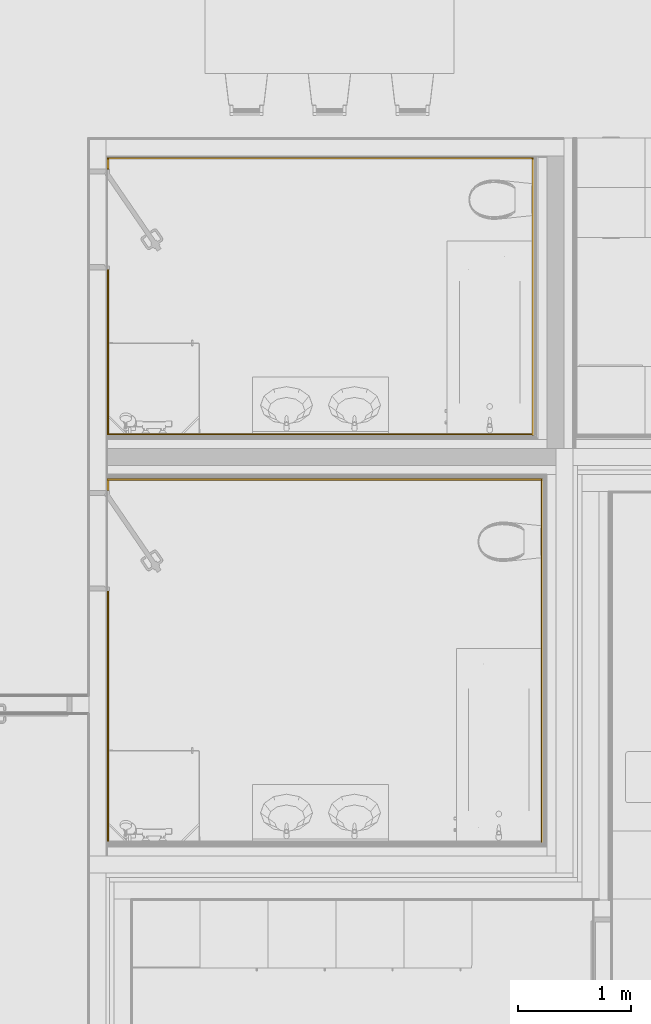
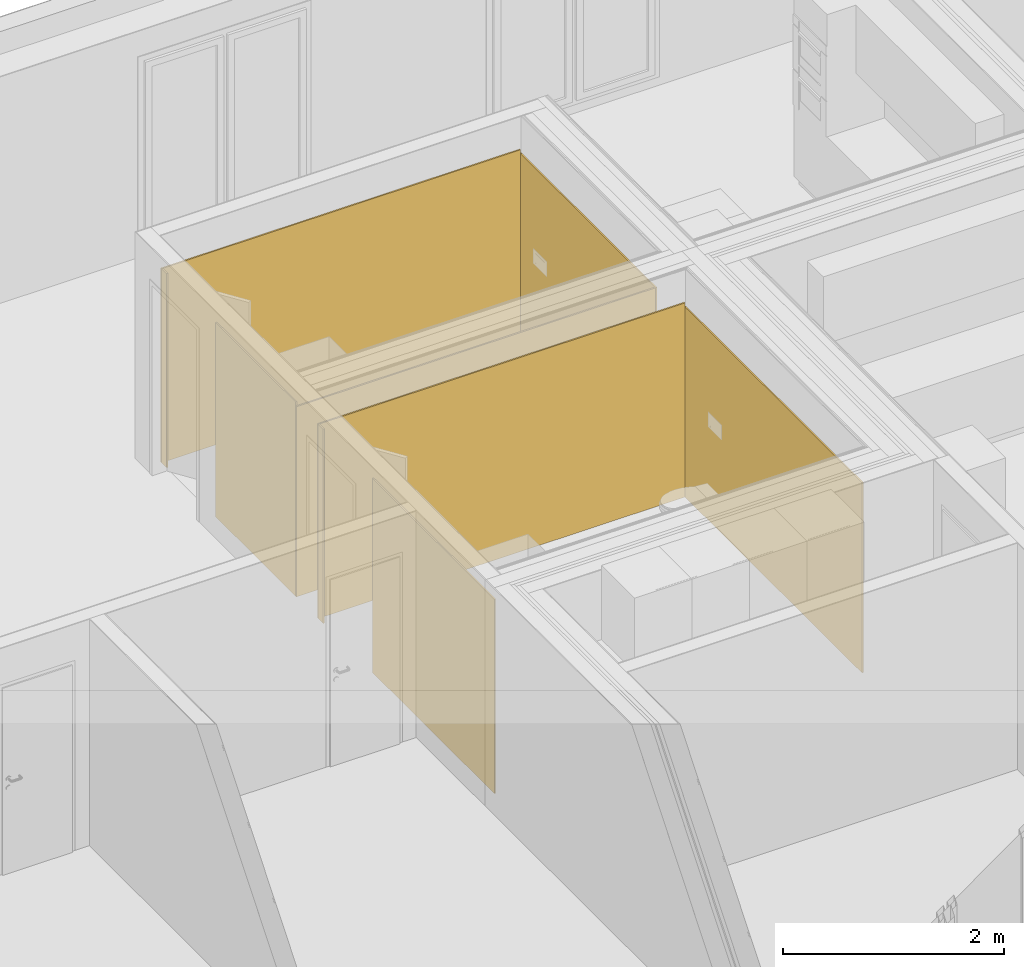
# One storey, part 23 of 34: 9 coverings.
"""IFC4 building model written with IfcOpenShell, lengths in millimetres."""

from ifc_helpers import new_model, entity, si_unit, converted_unit, derived_unit, direction, frame, origin_with_axes, place, context, subcontext, project, spatial, polygons, material, constituent, constituent_set, type_object, element, save


model = new_model("IFC4")

# Units and contexts
model_context = context("Model", 3, precision=0.01, world=origin_with_axes(), true_north=direction((0.0, 1.0)))
body_context = subcontext(model_context, "Body", "Model", "MODEL_VIEW")
ifc_project = project(units=[si_unit("LENGTHUNIT", "METRE", prefix="MILLI"), si_unit("AREAUNIT", "SQUARE_METRE"), si_unit("VOLUMEUNIT", "CUBIC_METRE"), converted_unit("PLANEANGLEUNIT", "DEGREE", entity("IfcPlaneAngleMeasure", 0.0174532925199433), si_unit("PLANEANGLEUNIT", "RADIAN"), dimensions=[0, 0, 0, 0, 0, 0, 0]), converted_unit("TIMEUNIT", "Year", entity("IfcTimeMeasure", 31557600.0), si_unit("TIMEUNIT", "SECOND"), dimensions=[0, 0, 1, 0, 0, 0, 0]), si_unit("MASSUNIT", "GRAM", prefix="KILO"), si_unit("THERMODYNAMICTEMPERATUREUNIT", "DEGREE_CELSIUS"), si_unit("LUMINOUSINTENSITYUNIT", "LUMEN"), si_unit("ENERGYUNIT", "JOULE", prefix="MEGA"), derived_unit("THERMALCONDUCTANCEUNIT", [(si_unit("POWERUNIT", "WATT"), 1), (si_unit("LENGTHUNIT", "METRE"), -1), (si_unit("THERMODYNAMICTEMPERATUREUNIT", "KELVIN"), -1)]), derived_unit("SPECIFICHEATCAPACITYUNIT", [(si_unit("ENERGYUNIT", "JOULE"), 1), (si_unit("MASSUNIT", "GRAM", prefix="KILO"), -1), (si_unit("THERMODYNAMICTEMPERATUREUNIT", "KELVIN"), -1)]), derived_unit("MASSDENSITYUNIT", [(si_unit("MASSUNIT", "GRAM", prefix="KILO"), 1), (si_unit("VOLUMEUNIT", "CUBIC_METRE"), -1)])], contexts=[model_context])

# Site, building, storey
site_placement = place(None, origin_with_axes())
site = spatial("IfcSite", under=ifc_project, at=site_placement, Name="Gelände", CompositionType="ELEMENT")
building_placement = place(site_placement, origin_with_axes())
building = spatial("IfcBuilding", under=site, at=building_placement, Name="Gebäude", CompositionType="ELEMENT")
storey_placement = place(building_placement, frame((0.0, 0.0, 5799.999999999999), z_axis=(0.0, 0.0, 1.0), x_axis=(1.0, 0.0, 0.0)))
storey = spatial("IfcBuildingStorey", under=building, at=storey_placement, Name="2.OG", CompositionType="ELEMENT", Elevation=5800.0)

# Coverings
ifc_material = material(Name="Naturstein")
ifc_constituent_1 = constituent(ifc_material, Name="Naturstein")
ifc_constituent_set_1 = constituent_set(constituents=[ifc_constituent_1], Name="Wandbekleidung Typ 01")
covering_type = type_object("IfcCoveringType", Name="Wandbekleidung Typ 01 15", PredefinedType="NOTDEFINED")
covering_1_placement = place(storey_placement, frame((297.9958184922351, 30702.59728131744, 150.0000000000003), z_axis=(0.0, 0.0, 1.0), x_axis=(0.0, -1.0, 0.0)))
element("IfcCovering", 1, at=covering_1_placement, inside=storey, type_object=covering_type, material=ifc_constituent_set_1, Name="Wand-014", PredefinedType="NOTDEFINED", context=body_context, shape_type="Tessellation", body=[
    polygons([(2208.223895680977, -15.00000000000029, 2145.000000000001), (2208.223895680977, -15.00000000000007, 2100.000000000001), (2208.223895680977, -15.00000000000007, 0.0), (2208.223895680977, 0.0, 0.0), (2208.223895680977, 0.0, 2100.000000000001), (2208.223895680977, 0.0, 2145.000000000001), (0.0, -15.00000000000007, 0.0), (0.0, -14.99999999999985, 2145.000000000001), (0.0, 0.0, 0.0), (0.0, 0.0, 2145.000000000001)], [[[1, 2, 3, 4, 5, 6]], [[7, 3, 2, 1, 8]], [[9, 4, 3, 7]], [[6, 5, 4, 9, 10]], [[10, 8, 1, 6]], [[10, 9, 7, 8]]], closed=True),
])
ifc_constituent_2 = constituent(ifc_material, Name="Naturstein")
ifc_constituent_set_2 = constituent_set(constituents=[ifc_constituent_2], Name="Wandbekleidung Typ 01")
covering_2_placement = place(storey_placement, frame((297.9958184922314, 31682.59728131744, 150.0000000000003), z_axis=(0.0, 0.0, 1.0), x_axis=(0.0, -1.0, 0.0)))
element("IfcCovering", 2, at=covering_2_placement, inside=storey, type_object=covering_type, material=ifc_constituent_set_2, Name="Wand-014", PredefinedType="NOTDEFINED", context=body_context, shape_type="Tessellation", body=[
    polygons([(0.0, -14.99999999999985, 2145.000000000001), (89.9999999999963, -14.9999999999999, 2145.000000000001), (89.9999999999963, 0.0, 2145.000000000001), (0.0, 0.0, 2145.000000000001), (0.0, -15.00000000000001, 0.0), (89.9999999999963, -15.00000000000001, 0.0), (89.9999999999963, 0.0, 0.0), (0.0, 0.0, 0.0)], [[[1, 2, 3, 4]], [[5, 6, 2, 1]], [[3, 2, 6, 7]], [[4, 3, 7, 8]], [[5, 1, 4, 8]], [[8, 7, 6, 5]]], closed=True),
])
ifc_constituent_3 = constituent(ifc_material, Name="Naturstein")
ifc_constituent_set_3 = constituent_set(constituents=[ifc_constituent_3], Name="Wandbekleidung Typ 01")
covering_3_placement = place(storey_placement, frame((4115.995818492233, 28494.37338563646, 150.0000000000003), z_axis=(0.0, 0.0, 1.0), x_axis=(0.0, 1.0, 0.0)))
element("IfcCovering", 3, at=covering_3_placement, inside=storey, type_object=covering_type, material=ifc_constituent_set_3, Name="Wand-014", PredefinedType="NOTDEFINED", context=body_context, shape_type="Tessellation", body=[
    polygons([(3188.223895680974, -14.99999999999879, 2100.000000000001), (3188.223895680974, 0.0, 2100.000000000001), (-15.00000000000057, 0.0, 2100.000000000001), (-15.00000000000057, -14.99999999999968, 2100.000000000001), (3188.223895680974, -14.99999999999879, 0.0), (3188.223895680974, 0.0, 0.0), (-15.00000000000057, 0.0, 0.0), (-15.00000000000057, -14.99999999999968, 0.0)], [[[1, 2, 3, 4]], [[2, 1, 5, 6]], [[2, 6, 7, 3]], [[8, 4, 3, 7]], [[5, 1, 4, 8]], [[6, 5, 8, 7]]], closed=True),
])
ifc_constituent_4 = constituent(ifc_material, Name="Naturstein")
ifc_constituent_set_4 = constituent_set(constituents=[ifc_constituent_4], Name="Wandbekleidung Typ 01")
covering_4_placement = place(storey_placement, frame((297.9958184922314, 31682.59728131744, 150.0000000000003), z_axis=(0.0, 0.0, 1.0), x_axis=(1.0, 0.0, 0.0)))
element("IfcCovering", 4, at=covering_4_placement, inside=storey, type_object=covering_type, material=ifc_constituent_set_4, Name="Wand-014", PredefinedType="NOTDEFINED", context=body_context, shape_type="Tessellation", body=[
    polygons([(-14.99999999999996, 15.00000000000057, 2145.000000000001), (3818.000000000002, 15.00000000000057, 2145.000000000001), (3818.000000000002, 15.00000000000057, 2100.000000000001), (3833.0, 15.00000000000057, 2100.000000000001), (3833.000000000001, 15.00000000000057, 0.0), (-14.99999999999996, 15.00000000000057, 0.0), (-14.99999999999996, 0.0, 2145.000000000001), (3818.000000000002, 0.0, 2145.000000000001), (3818.000000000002, 0.0, 2100.000000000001), (3833.0, 0.0, 2100.000000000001), (3833.000000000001, 0.0, 0.0), (-14.99999999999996, 0.0, 0.0)], [[[1, 2, 3, 4, 5, 6]], [[7, 8, 2, 1]], [[9, 3, 2, 8]], [[9, 10, 4, 3]], [[5, 4, 10, 11]], [[6, 5, 11, 12]], [[1, 6, 12, 7]], [[10, 9, 8, 7, 12, 11]]], closed=True),
])
ifc_constituent_5 = constituent(ifc_material, Name="Naturstein")
ifc_constituent_set_5 = constituent_set(constituents=[ifc_constituent_5], Name="Wandbekleidung Typ 01")
covering_5_placement = place(storey_placement, frame((297.9958184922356, 33539.06370406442, 150.0000000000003), z_axis=(0.0, 0.0, 1.0), x_axis=(0.0, -1.0, 0.0)))
element("IfcCovering", 5, at=covering_5_placement, inside=storey, type_object=covering_type, material=ifc_constituent_set_5, Name="Wand-014", PredefinedType="NOTDEFINED", context=body_context, shape_type="Tessellation", body=[
    polygons([(1446.466422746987, -15.00000000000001, 2145.000000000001), (1446.466422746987, -15.00000000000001, 2100.000000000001), (1446.466422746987, -15.00000000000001, 0.0), (1446.466422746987, 0.0, 0.0), (1446.466422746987, 0.0, 2100.000000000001), (1446.466422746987, 0.0, 2145.000000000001), (0.0, -15.00000000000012, 0.0), (0.0, -14.9999999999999, 2145.000000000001), (0.0, 0.0, 0.0), (0.0, 0.0, 2145.000000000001)], [[[1, 2, 3, 4, 5, 6]], [[7, 3, 2, 1, 8]], [[9, 4, 3, 7]], [[6, 5, 4, 9, 10]], [[10, 8, 1, 6]], [[10, 9, 7, 8]]], closed=True),
])
ifc_constituent_6 = constituent(ifc_material, Name="Naturstein")
ifc_constituent_set_6 = constituent_set(constituents=[ifc_constituent_6], Name="Wandbekleidung Typ 01")
covering_6_placement = place(storey_placement, frame((4035.773549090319, 32092.59728131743, 150.0000000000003), z_axis=(0.0, 0.0, 1.0), x_axis=(-1.0, 0.0, 0.0)))
element("IfcCovering", 6, at=covering_6_placement, inside=storey, type_object=covering_type, material=ifc_constituent_set_6, Name="Wand-014", PredefinedType="NOTDEFINED", context=body_context, shape_type="Tessellation", body=[
    polygons([(3752.777730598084, 15.00000000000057, 0.0), (3752.777730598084, 0.0, 0.0), (0.0, 0.0, 0.0), (0.0, 15.00000000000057, 0.0), (3752.777730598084, 15.00000000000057, 2100.000000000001), (3752.777730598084, 0.0, 2100.000000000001), (0.0, 0.0, 2100.000000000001), (0.0, 15.00000000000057, 2100.000000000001)], [[[1, 2, 3, 4]], [[2, 1, 5, 6]], [[2, 6, 7, 3]], [[8, 4, 3, 7]], [[5, 1, 4, 8]], [[6, 5, 8, 7]]], closed=True),
])
ifc_constituent_7 = constituent(ifc_material, Name="Naturstein")
ifc_constituent_set_7 = constituent_set(constituents=[ifc_constituent_7], Name="Wandbekleidung Typ 01")
covering_7_placement = place(storey_placement, frame((4035.773549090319, 32092.59728131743, 150.0000000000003), z_axis=(0.0, 0.0, 1.0), x_axis=(0.0, 1.0, 0.0)))
element("IfcCovering", 7, at=covering_7_placement, inside=storey, type_object=covering_type, material=ifc_constituent_set_7, Name="Wand-014", PredefinedType="NOTDEFINED", context=body_context, shape_type="Tessellation", body=[
    polygons([(2426.466422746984, -14.99999999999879, 2100.000000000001), (2426.466422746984, 0.0, 2100.000000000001), (-15.00000000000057, 0.0, 2100.000000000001), (-15.00000000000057, -14.99999999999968, 2100.000000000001), (2426.466422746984, -14.99999999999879, 0.0), (2426.466422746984, 0.0, 0.0), (-15.00000000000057, 0.0, 0.0), (-15.00000000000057, -14.99999999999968, 0.0)], [[[1, 2, 3, 4]], [[2, 1, 5, 6]], [[2, 6, 7, 3]], [[8, 4, 3, 7]], [[5, 1, 4, 8]], [[6, 5, 8, 7]]], closed=True),
])
ifc_constituent_8 = constituent(ifc_material, Name="Naturstein")
ifc_constituent_set_8 = constituent_set(constituents=[ifc_constituent_8], Name="Wandbekleidung Typ 01")
covering_8_placement = place(storey_placement, frame((297.9958184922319, 34519.06370406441, 150.0000000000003), z_axis=(0.0, 0.0, 1.0), x_axis=(0.0, -1.0, 0.0)))
element("IfcCovering", 8, at=covering_8_placement, inside=storey, type_object=covering_type, material=ifc_constituent_set_8, Name="Wand-014", PredefinedType="NOTDEFINED", context=body_context, shape_type="Tessellation", body=[
    polygons([(0.0, -14.99999999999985, 2145.000000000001), (89.9999999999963, -14.9999999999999, 2145.000000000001), (89.9999999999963, 0.0, 2145.000000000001), (0.0, 0.0, 2145.000000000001), (0.0, -15.00000000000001, 0.0), (89.9999999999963, -15.00000000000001, 0.0), (89.9999999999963, 0.0, 0.0), (0.0, 0.0, 0.0)], [[[1, 2, 3, 4]], [[5, 6, 2, 1]], [[3, 2, 6, 7]], [[4, 3, 7, 8]], [[5, 1, 4, 8]], [[8, 7, 6, 5]]], closed=True),
])
ifc_constituent_9 = constituent(ifc_material, Name="Naturstein")
ifc_constituent_set_9 = constituent_set(constituents=[ifc_constituent_9], Name="Wandbekleidung Typ 01")
covering_9_placement = place(storey_placement, frame((297.9958184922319, 34519.06370406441, 150.0000000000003), z_axis=(0.0, 0.0, 1.0), x_axis=(1.0, 0.0, 0.0)))
element("IfcCovering", 9, at=covering_9_placement, inside=storey, type_object=covering_type, material=ifc_constituent_set_9, Name="Wand-014", PredefinedType="NOTDEFINED", context=body_context, shape_type="Tessellation", body=[
    polygons([(-15.00000000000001, 15.00000000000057, 2145.000000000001), (3737.777730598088, 15.00000000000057, 2145.000000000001), (3737.777730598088, 15.00000000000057, 2100.000000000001), (3752.777730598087, 15.00000000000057, 2100.000000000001), (3752.777730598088, 15.00000000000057, 0.0), (-15.00000000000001, 15.00000000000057, 0.0), (-15.00000000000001, 0.0, 2145.000000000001), (3737.777730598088, 0.0, 2145.000000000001), (3737.777730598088, 0.0, 2100.000000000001), (3752.777730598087, 0.0, 2100.000000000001), (3752.777730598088, 0.0, 0.0), (-15.00000000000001, 0.0, 0.0)], [[[1, 2, 3, 4, 5, 6]], [[7, 8, 2, 1]], [[9, 3, 2, 8]], [[9, 10, 4, 3]], [[5, 4, 10, 11]], [[6, 5, 11, 12]], [[1, 6, 12, 7]], [[10, 9, 8, 7, 12, 11]]], closed=True),
])

save(model, "model.ifc")
